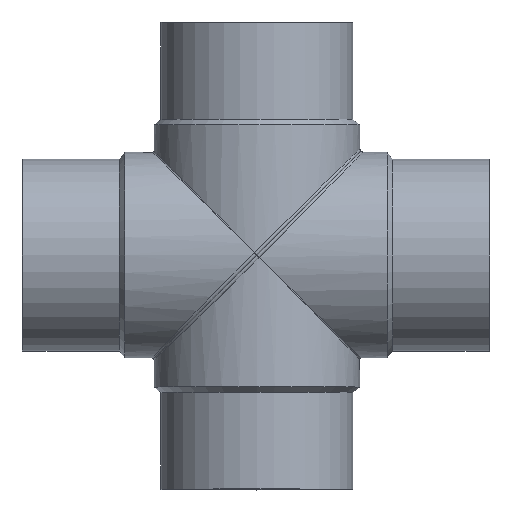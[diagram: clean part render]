
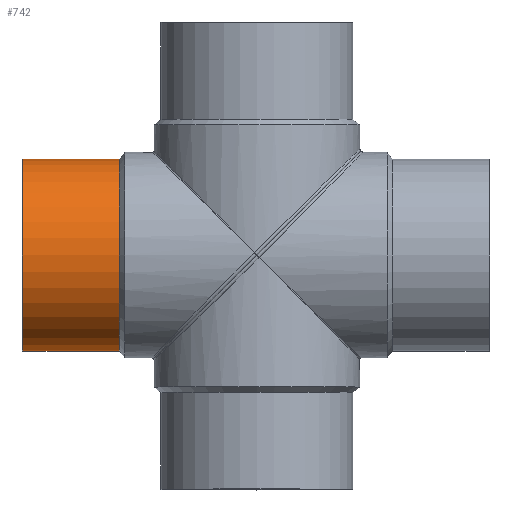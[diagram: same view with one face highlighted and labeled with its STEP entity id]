
A CAD part, top view. The second image highlights one B-rep face of the part: STEP entity #742.
In plain terms, the highlighted cylindrical face has radius 140 mm (diameter 280 mm), a full revolution.
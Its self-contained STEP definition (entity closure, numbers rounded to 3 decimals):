
#46=CIRCLE('',#806,140.);
#47=CIRCLE('',#808,140.);
#70=CYLINDRICAL_SURFACE('',#807,140.);
#204=ORIENTED_EDGE('',*,*,#430,.T.);
#205=ORIENTED_EDGE('',*,*,#429,.T.);
#429=EDGE_CURVE('',#542,#542,#46,.T.);
#430=EDGE_CURVE('',#543,#543,#47,.T.);
#542=VERTEX_POINT('',#1266);
#543=VERTEX_POINT('',#1269);
#624=EDGE_LOOP('',(#204));
#625=EDGE_LOOP('',(#205));
#682=FACE_BOUND('',#624,.T.);
#683=FACE_BOUND('',#625,.T.);
#742=ADVANCED_FACE('',(#682,#683),#70,.T.);
#806=AXIS2_PLACEMENT_3D('',#1265,#880,#881);
#807=AXIS2_PLACEMENT_3D('',#1267,#882,#883);
#808=AXIS2_PLACEMENT_3D('',#1268,#884,#885);
#880=DIRECTION('',(-1.,0.,0.));
#881=DIRECTION('',(0.,0.,1.));
#882=DIRECTION('',(-1.,0.,0.));
#883=DIRECTION('',(0.,0.,1.));
#884=DIRECTION('',(1.,0.,0.));
#885=DIRECTION('',(0.,0.,-1.));
#1265=CARTESIAN_POINT('',(-200.5,0.,0.));
#1266=CARTESIAN_POINT('',(-200.5,0.,140.));
#1267=CARTESIAN_POINT('',(-60.,0.,0.));
#1268=CARTESIAN_POINT('',(-341.5,0.,0.));
#1269=CARTESIAN_POINT('',(-341.5,0.,-140.));
